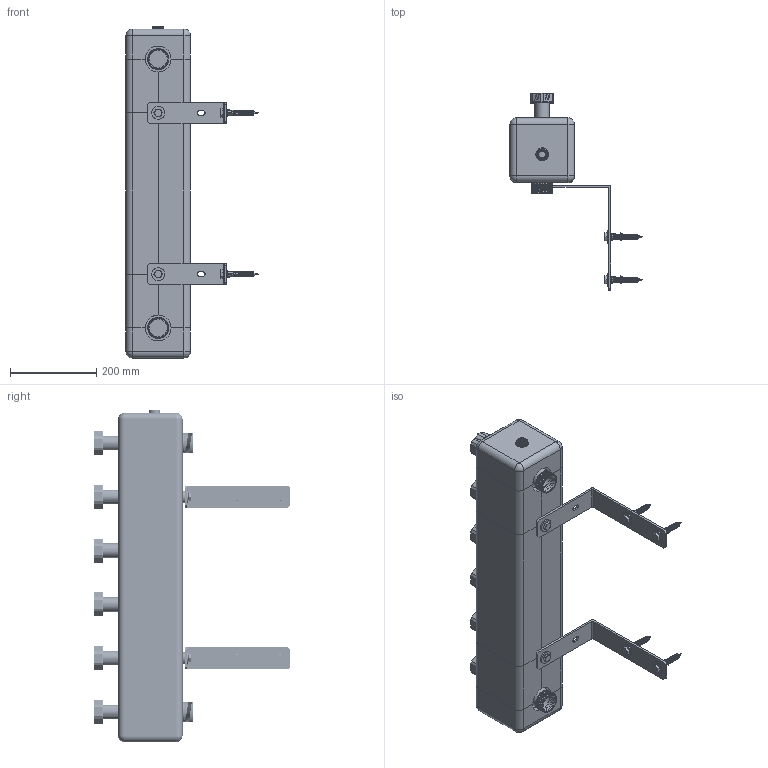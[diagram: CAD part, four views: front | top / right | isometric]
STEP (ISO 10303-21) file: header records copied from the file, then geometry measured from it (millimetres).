
FILE_DESCRIPTION (( 'STEP AP214' ), '1' );
FILE_NAME ('KSV_rozdzielacz_ze_sprzeglem_hydraulicznym_77315_2_3D_AFRISO.STEP', '2026-07-28T10:50:15', ( '' ), ( '' ), 'SwSTEP 2.0', 'SolidWorks 2024', '' );
FILE_SCHEMA (( 'AUTOMOTIVE_DESIGN' ));
Length unit declared in the file: millimetre
Products named in the file (31): 08_001_036; ZIDNI_VLOZEK_12; 08_001_017; DIN9021-10; 08_001_045_4; 08_001_045_5; 08_016_017; 08_016_016; 08_001_039_4; 08_001_034; 08_016_010; 08_001_008; DIN571_10X80_CUZN; 08_010_002; 08_013_022; GUMA_NOSILCA_M10; 08_016_007; 08_001_018; SCREW_DIN_933-M10X25-8_8-A; 08_016_006; 08_016_004; 08_001_034_SESTAVLJEN_ASM; 08_016_008; 08_001_045_3; 08_001_036_1; 08_014_014; KSV_rozdzielacz_ze_sprzeglem_hydraulicznym_77315_2_3D_AFRISO; 08_016_009; 08_001_045_2; 08_016_011; 08_016_300_IZOLACIJA_ASM
Assembly tree (63 placements, depth 3):
  KSV_rozdzielacz_ze_sprzeglem_hydraulicznym_77315_2_3D_AFRISO
    08_016_300_IZOLACIJA_ASM
      08_001_036
      08_001_039_4  x2
      08_001_036_1
      08_001_045_2
      08_001_045_3
      08_001_045_4
      08_001_045_5
    08_001_034_SESTAVLJEN_ASM  x2
      08_001_034
      DIN9021-10
      SCREW_DIN_933-M10X25-8_8-A
      GUMA_NOSILCA_M10
      DIN571_10X80_CUZN
      ZIDNI_VLOZEK_12
    08_016_009
    08_016_010
    08_016_011
    08_010_002  x2
    08_001_008  x2
    08_016_004  x5
    08_016_006
    08_016_007
    08_016_008
    08_014_014  x3
    08_016_017  x3
    08_016_016  x3
    08_001_017  x6
    08_001_018  x6
    08_013_022  x6
Bounding box: 307.3 x 458 x 772 mm (x, y, z)
Volume: 12702541 mm3; surface area: 2259436.6 mm2
Topology: 66 solids, 74 shells, 3944 faces, 10690 edges, 6866 vertices
Faces by surface type: plane 1391, cylinder 1269, cone 962, bspline 202, torus 112, sphere 8
Entity records: 69759 total; most frequent: CARTESIAN_POINT 32292, ORIENTED_EDGE 7946, DIRECTION 7235, EDGE_CURVE 3977, AXIS2_PLACEMENT_3D 2707, VERTEX_POINT 2568, LINE 1821, VECTOR 1821
